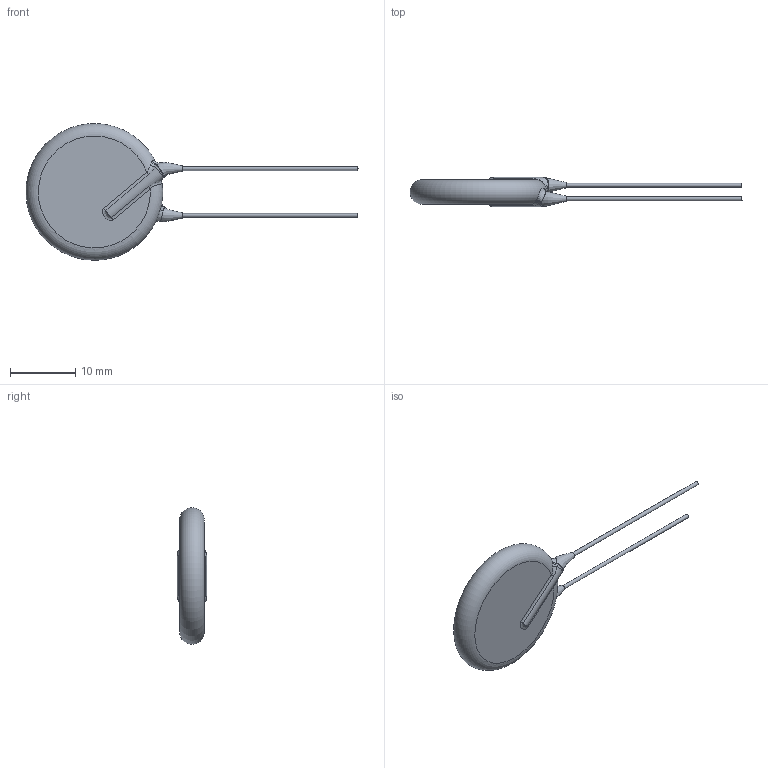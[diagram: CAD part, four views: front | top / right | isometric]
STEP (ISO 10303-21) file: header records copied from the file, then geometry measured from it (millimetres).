
FILE_DESCRIPTION(/* description */ (''),/* implementation_level */ '2;1');
FILE_NAME(/* name */ 'I:\Marketing\M6t1\3D-Models\Zchng-Werk-3\Upload for homepage\Roederstein\WYO\Y5U_250-440\WYO103MCMCF0KR\WYO103MCMCF0KR.stp',/* time_stamp */ '2018-03-20T15:54:17+01:00',/* author */ ('sheinrich'),/* organization */ (''),/* preprocessor_version */ 'ST-DEVELOPER v16.1',/* originating_system */ 'Autodesk Inventor 2016',/* authorisation */ '');
FILE_SCHEMA (('AUTOMOTIVE_DESIGN { 1 0 10303 214 3 1 1 }'));
Length unit declared in the file: centimetre
Products named in the file (1): WYO103MCMCF0KR
Bounding box: 51 x 4.5 x 21 mm (x, y, z)
Volume: 1263.4 mm3; surface area: 973.1 mm2
Topology: 1 solids, 1 shells, 41 faces, 92 edges, 55 vertices
Faces by surface type: bspline 22, cylinder 8, plane 6, torus 5
Full cylindrical faces by diameter (mm): 0.6 x2
Entity records: 2035 total; most frequent: CARTESIAN_POINT 1194, ORIENTED_EDGE 176, DIRECTION 116, EDGE_CURVE 88, VERTEX_POINT 54, AXIS2_PLACEMENT_3D 54, B_SPLINE_CURVE_WITH_KNOTS 46, EDGE_LOOP 46
